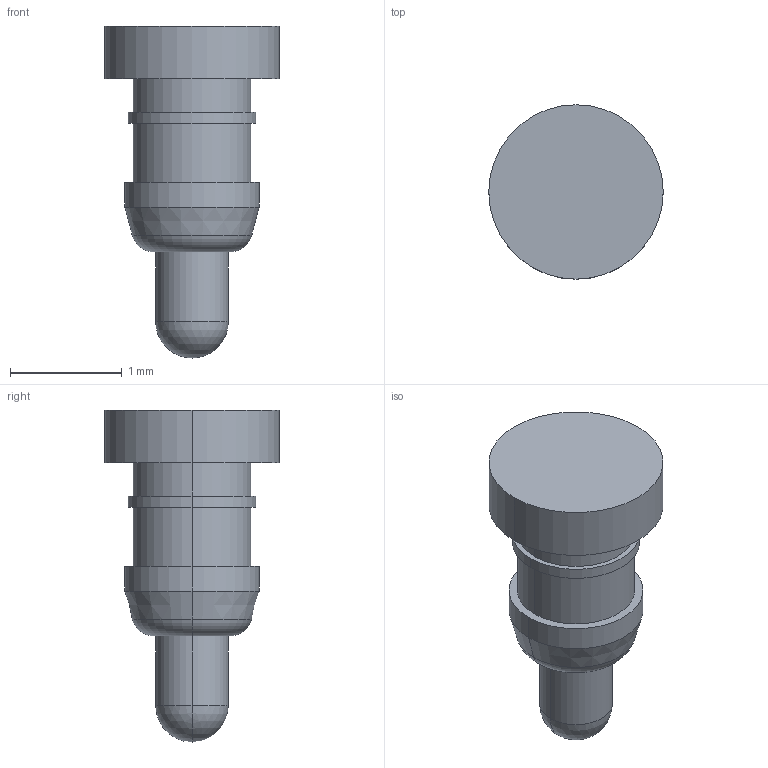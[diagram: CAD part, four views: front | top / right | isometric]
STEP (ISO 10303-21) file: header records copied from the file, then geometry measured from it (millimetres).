
FILE_DESCRIPTION((''),'2;1');
FILE_NAME('NC5150-01PD','2023-02-06T18:31:30',('Administrator'),(''),'CREO PARAMETRIC BY PTC INC, 2018400','CREO PARAMETRIC BY PTC INC, 2018400','');
FILE_SCHEMA(('CONFIG_CONTROL_DESIGN'));
Length unit declared in the file: millimetre
Products named in the file (1): NC5150-01PD
Bounding box: 1.56 x 1.56 x 2.97 mm (x, y, z)
Volume: 2.6 mm3; surface area: 13.4 mm2
Topology: 1 solids, 1 shells, 24 faces, 48 edges, 29 vertices
Faces by surface type: cylinder 12, plane 6, cone 2, torus 2, sphere 2
Entity records: 660 total; most frequent: DIRECTION 126, CARTESIAN_POINT 99, ORIENTED_EDGE 92, AXIS2_PLACEMENT_3D 56, EDGE_CURVE 46, CIRCLE 32, VERTEX_POINT 29, EDGE_LOOP 29
